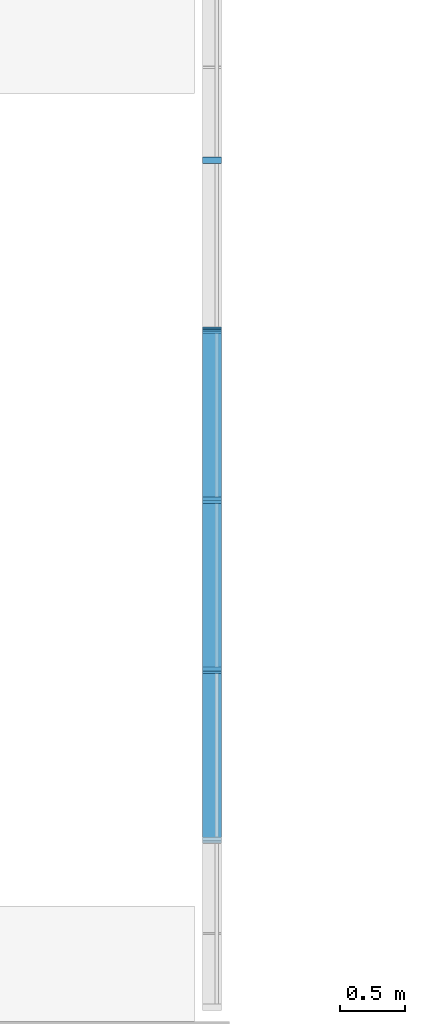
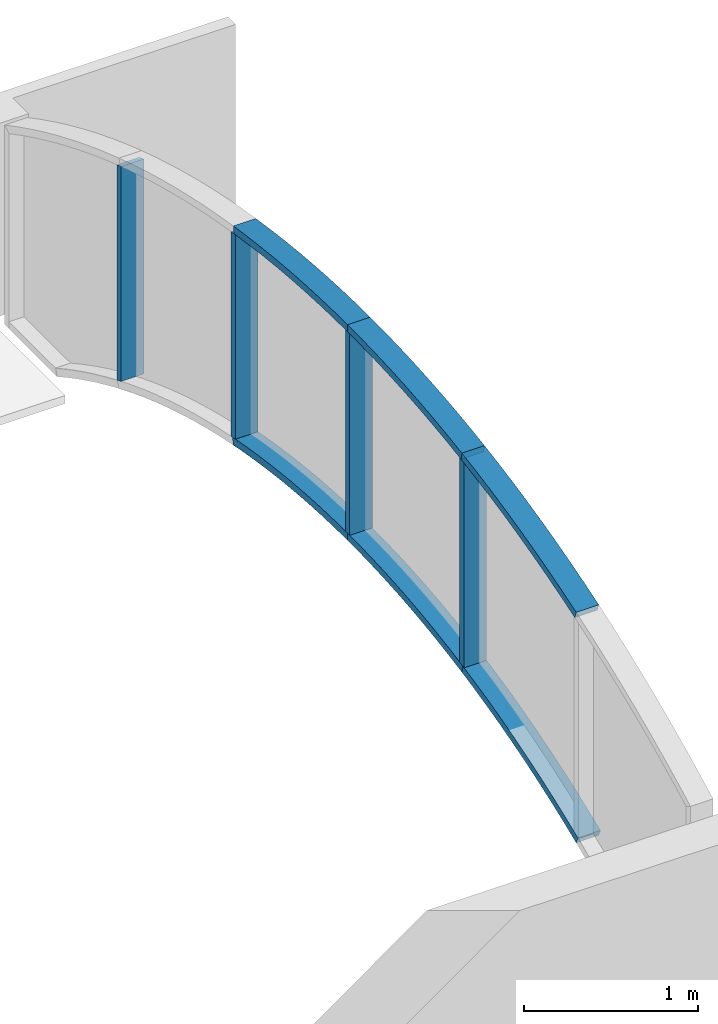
# One storey, part 5 of 14: 16 members, 2 elements without a shape of their own.
"""IFC2X3 building model written with IfcOpenShell, lengths in metres."""

from ifc_helpers import new_model, entity, si_unit, converted_unit, frame, frame_2d, origin, place, context, project, spatial, polyline, circle_curve, parameter, trimmed, segment, composite_curve, outline, extrude, source, transform, mapped, material, type_object, type_shapes, element, aggregate, save


model = new_model("IFC2X3")

# Units and contexts
model_context = context("Model", 3, precision=1e-09, world=origin())
plan_context = context("Plan", 3, precision=1e-09, world=origin())
ifc_project = project(units=[si_unit("LENGTHUNIT", "METRE"), si_unit("AREAUNIT", "SQUARE_METRE"), si_unit("VOLUMEUNIT", "CUBIC_METRE"), converted_unit("PLANEANGLEUNIT", "DEGREE", entity("IfcRatioMeasure", 0.01745329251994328), si_unit("PLANEANGLEUNIT", "RADIAN"), dimensions=[0, 0, 0, 0, 0, 0, 0]), si_unit("TIMEUNIT", "SECOND")], contexts=[model_context, plan_context])

# Site, building, storey
site_placement = place(None, origin())
site = spatial("IfcSite", under=ifc_project, at=site_placement, Name="Default", CompositionType="ELEMENT")
building_placement = place(site_placement, origin())
building = spatial("IfcBuilding", under=site, at=building_placement, CompositionType="ELEMENT")
storey_placement = place(building_placement, frame((0.0, 0.0, 9.25000000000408)))
storey = spatial("IfcBuildingStorey", under=building, at=storey_placement, Name="Roof - Main", CompositionType="ELEMENT", Elevation=9.25000000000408)

# Curtain wall, members
curtain_wall_1_placement = place(storey_placement, origin())
curtain_wall_1 = element("IfcCurtainWall", 1, at=curtain_wall_1_placement, inside=storey, Name="Curtain Wall:Storefront", ObjectType="Curtain Wall:Storefront")
ifc_material = material(Name="Metal - Aluminium")
member_type_1 = type_object("IfcMemberType", Name="50 x 150mm", PredefinedType="MULLION")
shared_shape_1 = source(origin(), model_context, "Body", "SweptSolid", [
    extrude(outline(composite_curve([segment(polyline([(-0.742957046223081, -0.0256760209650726), (0.7624396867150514, -0.0256760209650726)]), True, "CONTINUOUS"), segment(trimmed(circle_curve(frame_2d((-7.105277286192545, -2.624112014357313), x_axis=(0.9875410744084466, 0.1573614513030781)), 8.285700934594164), [parameter(9.22283189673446)], [parameter(9.290308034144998)], True, "PARAMETER"), True, "CONTINUOUS"), segment(polyline([(0.7593740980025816, -0.01641215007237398), (0.7525883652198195, 0.003964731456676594)]), True, "CONTINUOUS"), segment(polyline([(0.7525883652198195, 0.003964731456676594), (0.7457498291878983, 0.02432397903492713)]), True, "CONTINUOUS"), segment(polyline([(0.7457498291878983, 0.02432397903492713), (-0.7637308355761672, 0.02432397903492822)]), True, "CONTINUOUS"), segment(trimmed(circle_curve(frame_2d((-7.072592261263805, -2.626170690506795), x_axis=(0.8711951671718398, 0.4909368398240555)), 6.843015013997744), [parameter(353.3346662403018)], [parameter(353.3861960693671)], True, "PARAMETER"), False, "CONTINUOUS"), segment(polyline([(-0.7613496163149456, 0.01864891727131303), (-0.7521144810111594, -0.003497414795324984)]), True, "CONTINUOUS"), segment(polyline([(-0.7521144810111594, -0.003497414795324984), (-0.742957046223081, -0.02567602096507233)]), True, "CONTINUOUS")], self_intersect=False)), frame((-0.0006760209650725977, -0.07499999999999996, -0.8074641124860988), z_axis=(0.0, 1.0, 0.0), x_axis=(0.0, 0.0, -1.0)), (0.0, 0.0, 1.0), 0.15),
])
type_shapes(member_type_1, [shared_shape_1])
member_1_placement = place(storey_placement, frame((-15.23000000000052, 34.31868599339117, 0.3470862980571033), z_axis=(0.0, 0.0, -1.0), x_axis=(0.0, -1.0, 0.0)))
member_1 = element("IfcMember", 2, at=member_1_placement, type_object=member_type_1, material=ifc_material, Name="Rectangular Mullion:50 x 150mm:50 x 150mm", ObjectType="50 x 150mm", context=model_context, shape_type="MappedRepresentation", body=[
    mapped(shared_shape_1, transform((0.0, 0.0, 0.0), scale=1.0)),
])
member_type_2 = type_object("IfcMemberType", Name="50 x 150mm", PredefinedType="MULLION")
shared_shape_2 = source(origin(), model_context, "Body", "SweptSolid", [
    extrude(outline(composite_curve([segment(polyline([(-0.7114755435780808, -0.02533874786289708), (0.720462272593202, -0.02533874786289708)]), True, "CONTINUOUS"), segment(trimmed(circle_curve(frame_2d((-7.46471926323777, -1.31205674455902), x_axis=(1.0, 0.0)), 8.285700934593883), [parameter(8.933836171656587)], [parameter(9.053778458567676)], True, "PARAMETER"), True, "CONTINUOUS"), segment(polyline([(0.7177507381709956, -0.008206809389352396), (0.7151146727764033, 0.008229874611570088)]), True, "CONTINUOUS"), segment(polyline([(0.7151146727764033, 0.008229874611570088), (0.7124455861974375, 0.02466125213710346)]), True, "CONTINUOUS"), segment(polyline([(0.7124455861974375, 0.02466125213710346), (-0.7212569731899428, 0.02466125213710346)]), True, "CONTINUOUS"), segment(trimmed(circle_curve(frame_2d((-7.432034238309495, -1.314115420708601), x_axis=(0.9222897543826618, 0.3864991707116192)), 6.843015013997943), [parameter(348.4144940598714)], [parameter(348.5453495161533)], True, "PARAMETER"), False, "CONTINUOUS"), segment(polyline([(-0.7182168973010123, 0.009331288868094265), (-0.7148238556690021, -0.007999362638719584)]), True, "CONTINUOUS"), segment(polyline([(-0.7148238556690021, -0.007999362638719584), (-0.7114755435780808, -0.02533874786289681)]), True, "CONTINUOUS")], self_intersect=False)), frame((-0.0003387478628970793, -0.07499999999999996, -0.7672728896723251), z_axis=(0.0, 1.0, 0.0), x_axis=(0.0, 0.0, -1.0)), (0.0, 0.0, 1.0), 0.15),
])
type_shapes(member_type_2, [shared_shape_2])
member_2_placement = place(storey_placement, frame((-15.23000000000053, 33.0069679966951, 0.7467194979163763), z_axis=(0.0, 0.0, -1.0), x_axis=(0.0, -1.0, 0.0)))
member_2 = element("IfcMember", 3, at=member_2_placement, type_object=member_type_2, material=ifc_material, Name="Rectangular Mullion:50 x 150mm:50 x 150mm", ObjectType="50 x 150mm", context=model_context, shape_type="MappedRepresentation", body=[
    mapped(shared_shape_2, transform((0.0, 0.0, 0.0), scale=1.0)),
])
member_type_3 = type_object("IfcMemberType", Name="50 x 150mm", PredefinedType="MULLION")
shared_shape_3 = source(origin(), model_context, "Body", "SweptSolid", [
    extrude(outline(composite_curve([segment(polyline([(-0.7050109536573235, -0.02500252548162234), (0.7049906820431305, -0.02500252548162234)]), True, "CONTINUOUS"), segment(trimmed(circle_curve(frame_2d((-7.580672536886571, -2.525481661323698e-06), x_axis=(0.9875410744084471, -0.1573614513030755)), 8.285700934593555), [parameter(8.880902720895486)], [parameter(9.053778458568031)], True, "PARAMETER"), True, "CONTINUOUS"), segment(trimmed(circle_curve(frame_2d((-7.580672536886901, -2.525481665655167e-06), x_axis=(1.0, 0.0)), 8.285700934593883), [parameter(0.0)], [parameter(0.1728757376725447)], True, "PARAMETER"), True, "CONTINUOUS"), segment(polyline([(0.7049906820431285, 0.02499747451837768), (-0.7050259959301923, 0.02499747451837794)]), True, "CONTINUOUS"), segment(trimmed(circle_curve(frame_2d((-7.547987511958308, -0.002061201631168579), x_axis=(0.9811197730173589, 0.1934011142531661)), 6.843015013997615), [parameter(348.8660276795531)], [parameter(349.075223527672)], True, "PARAMETER"), False, "CONTINUOUS"), segment(trimmed(circle_curve(frame_2d((-7.547987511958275, -0.002061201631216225), x_axis=(0.9999999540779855, 0.0003030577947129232)), 6.843015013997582), [parameter(359.7905506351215)], [parameter(0.0)], True, "PARAMETER"), False, "CONTINUOUS")], self_intersect=False)), frame((-2.525481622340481e-06, -0.07499999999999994, -0.7549728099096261), z_axis=(0.0, 1.0, 0.0), x_axis=(0.0, 0.0, -1.0)), (0.0, 0.0, 1.0), 0.15),
])
type_shapes(member_type_3, [shared_shape_3])
member_3_placement = place(storey_placement, frame((-15.23000000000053, 31.69524999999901, 0.8749728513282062), z_axis=(0.0, 0.0, -1.0), x_axis=(0.0, -1.0, 0.0)))
member_3 = element("IfcMember", 4, at=member_3_placement, type_object=member_type_3, material=ifc_material, Name="Rectangular Mullion:50 x 150mm:50 x 150mm", ObjectType="50 x 150mm", context=model_context, shape_type="MappedRepresentation", body=[
    mapped(shared_shape_3, transform((0.0, 0.0, 0.0), scale=1.0)),
])
member_type_4 = type_object("IfcMemberType", Name="50 x 150mm", PredefinedType="MULLION")
shared_shape_4 = source(origin(), model_context, "Body", "SweptSolid", [
    extrude(outline(composite_curve([segment(polyline([(-0.07677120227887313, -0.6538919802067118), (-0.02677120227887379, -0.6538919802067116)]), True, "CONTINUOUS"), segment(trimmed(circle_curve(frame_2d((8.25892973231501, -0.6538919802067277), x_axis=(-0.987541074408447, 0.1573614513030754)), 8.285700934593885), [parameter(3.562221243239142e-13)], [parameter(9.053778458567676)], True, "PARAMETER"), False, "CONTINUOUS"), segment(polyline([(0.07645972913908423, 0.6499579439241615), (0.02708267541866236, 0.6578260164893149)]), True, "CONTINUOUS"), segment(trimmed(circle_curve(frame_2d((8.25892973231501, -0.6538919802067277), x_axis=(-0.987541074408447, 0.1573614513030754)), 8.335700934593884), [parameter(3.562221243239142e-13)], [parameter(9.053778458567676)], True, "PARAMETER"), True, "CONTINUOUS")], self_intersect=False)), frame((-0.07677120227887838, -0.07499999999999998, -0.6538919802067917), z_axis=(0.0, 1.0, 0.0), x_axis=(-0.987541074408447, 0.0, 0.1573614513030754)), (0.0, 0.0, 1.0), 0.15),
])
type_shapes(member_type_4, [shared_shape_4])
member_4_placement = place(storey_placement, frame((-15.23000000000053, 31.69524999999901, 2.384974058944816), z_axis=(0.0, -1.0, 0.0), x_axis=(0.0, 0.0, 1.0)))
member_4 = element("IfcMember", 5, at=member_4_placement, type_object=member_type_4, material=ifc_material, Name="Rectangular Mullion:50 x 150mm:50 x 150mm", ObjectType="50 x 150mm", context=model_context, shape_type="MappedRepresentation", body=[
    mapped(shared_shape_4, transform((0.0, 0.0, 0.0), scale=1.0)),
])
member_type_5 = type_object("IfcMemberType", Name="50 x 150mm", PredefinedType="MULLION")
shared_shape_5 = source(origin(), model_context, "Body", "SweptSolid", [
    extrude(outline(composite_curve([segment(polyline([(-0.07677120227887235, -0.6538919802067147), (-0.02677120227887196, -0.6538919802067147)]), True, "CONTINUOUS"), segment(trimmed(circle_curve(frame_2d((8.258929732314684, -0.653891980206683), x_axis=(-0.9875410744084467, 0.1573614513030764)), 8.285700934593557), [parameter(3.562221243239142e-13)], [parameter(9.053778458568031)], True, "PARAMETER"), False, "CONTINUOUS"), segment(polyline([(0.0764597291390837, 0.6499579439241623), (0.02708267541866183, 0.6578260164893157)]), True, "CONTINUOUS"), segment(trimmed(circle_curve(frame_2d((8.258929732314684, -0.653891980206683), x_axis=(-0.9875410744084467, 0.1573614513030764)), 8.335700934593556), [parameter(3.562221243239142e-13)], [parameter(9.053778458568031)], True, "PARAMETER"), True, "CONTINUOUS")], self_intersect=False)), frame((-0.07677120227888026, -0.07499999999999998, -0.6538919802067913), z_axis=(0.0, 1.0, 0.0), x_axis=(-0.9875410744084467, 0.0, 0.1573614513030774)), (0.0, 0.0, 1.0), 0.1499999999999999),
])
type_shapes(member_type_5, [shared_shape_5])
member_5_placement = place(storey_placement, frame((-15.23000000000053, 30.38353200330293, 2.281120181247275), z_axis=(0.0, -0.9875410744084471, -0.1573614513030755), x_axis=(0.0, -0.1573614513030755, 0.9875410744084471)))
member_5 = element("IfcMember", 6, at=member_5_placement, type_object=member_type_5, material=ifc_material, Name="Rectangular Mullion:50 x 150mm:50 x 150mm", ObjectType="50 x 150mm", context=model_context, shape_type="MappedRepresentation", body=[
    mapped(shared_shape_5, transform((0.0, 0.0, 0.0), scale=1.0)),
])
member_type_6 = type_object("IfcMemberType", Name="50 x 150mm", PredefinedType="MULLION")
shared_shape_6 = source(origin(), model_context, "Body", "SweptSolid", [
    extrude(outline(composite_curve([segment(polyline([(0.03916318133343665, -0.6582921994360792), (0.08916318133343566, -0.6582921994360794)]), True, "CONTINUOUS"), segment(trimmed(circle_curve(frame_2d((-6.753851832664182, -0.6582921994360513), x_axis=(0.9811783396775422, 0.1931037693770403)), 6.843015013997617), [parameter(348.8660276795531)], [parameter(359.9999999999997)], True, "PARAMETER"), True, "CONTINUOUS"), segment(polyline([(-0.03963372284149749, 0.6631197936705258), (-0.08869263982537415, 0.6534646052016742)]), True, "CONTINUOUS"), segment(trimmed(circle_curve(frame_2d((-6.753851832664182, -0.6582921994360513), x_axis=(0.9811783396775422, 0.1931037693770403)), 6.793015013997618), [parameter(348.8660276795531)], [parameter(359.9999999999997)], True, "PARAMETER"), False, "CONTINUOUS")], self_intersect=False)), frame((0.03916318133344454, -0.07499999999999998, -0.6582921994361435), z_axis=(0.0, 1.0, 0.0), x_axis=(-0.9811783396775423, 0.0, -0.1931037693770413)), (0.0, 0.0, 1.0), 0.1499999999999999),
])
type_shapes(member_type_6, [shared_shape_6])
member_6_placement = place(storey_placement, frame((-15.23000000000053, 33.0069679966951, 0.7467194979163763), z_axis=(0.0, 0.9811197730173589, -0.1934011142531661), x_axis=(0.0, -0.1934011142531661, -0.9811197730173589)))
member_6 = element("IfcMember", 7, at=member_6_placement, type_object=member_type_6, material=ifc_material, Name="Rectangular Mullion:50 x 150mm:50 x 150mm", ObjectType="50 x 150mm", context=model_context, shape_type="MappedRepresentation", body=[
    mapped(shared_shape_6, transform((0.0, 0.0, 0.0), scale=1.0)),
])
member_type_7 = type_object("IfcMemberType", Name="50 x 150mm", PredefinedType="MULLION")
shared_shape_7 = source(origin(), model_context, "Body", "SweptSolid", [
    extrude(outline(composite_curve([segment(polyline([(0.03915552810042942, -0.6582533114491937), (0.08915552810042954, -0.6582533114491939)]), True, "CONTINUOUS"), segment(trimmed(circle_curve(frame_2d((-6.753859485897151, -0.6582533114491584), x_axis=(0.9811805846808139, 0.1930923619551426)), 6.84301501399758), [parameter(348.8666938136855)], [parameter(359.9999999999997)], True, "PARAMETER"), True, "CONTINUOUS"), segment(polyline([(-0.03962601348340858, 0.6630806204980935), (-0.08868504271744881, 0.6534260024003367)]), True, "CONTINUOUS"), segment(trimmed(circle_curve(frame_2d((-6.753859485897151, -0.6582533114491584), x_axis=(0.9811805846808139, 0.1930923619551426)), 6.793015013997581), [parameter(348.8666938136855)], [parameter(359.9999999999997)], True, "PARAMETER"), False, "CONTINUOUS")], self_intersect=False)), frame((0.03915552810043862, -0.07499999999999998, -0.6582533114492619), z_axis=(0.0, 1.0, 0.0), x_axis=(-0.981180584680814, 0.0, -0.1930923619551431)), (0.0, 0.0, 1.0), 0.1499999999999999),
])
type_shapes(member_type_7, [shared_shape_7])
member_7_placement = place(storey_placement, frame((-15.23000000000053, 31.69524999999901, 0.8749728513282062), z_axis=(0.0, 0.9999999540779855, -0.0003030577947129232), x_axis=(0.0, -0.0003030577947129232, -0.9999999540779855)))
member_7 = element("IfcMember", 8, at=member_7_placement, type_object=member_type_7, material=ifc_material, Name="Rectangular Mullion:50 x 150mm:50 x 150mm", ObjectType="50 x 150mm", context=model_context, shape_type="MappedRepresentation", body=[
    mapped(shared_shape_7, transform((0.0, 0.0, 0.0), scale=1.0)),
])
aggregate(curtain_wall_1, [member_1, member_2, member_3, member_4, member_5, member_6, member_7])

curtain_wall_2_placement = place(storey_placement, origin())
curtain_wall_2 = element("IfcCurtainWall", 9, at=curtain_wall_2_placement, inside=storey, Name="Curtain Wall:Storefront", ObjectType="Curtain Wall:Storefront")
member_type_8 = type_object("IfcMemberType", Name="50 x 150mm", PredefinedType="MULLION")
shared_shape_8 = source(origin(), model_context, "Body", "SweptSolid", [
    extrude(outline(composite_curve([segment(polyline([(-0.7114755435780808, -0.02533874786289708), (0.720462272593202, -0.02533874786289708)]), True, "CONTINUOUS"), segment(trimmed(circle_curve(frame_2d((-7.46471926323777, -1.31205674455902), x_axis=(1.0, 0.0)), 8.285700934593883), [parameter(8.933836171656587)], [parameter(9.053778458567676)], True, "PARAMETER"), True, "CONTINUOUS"), segment(polyline([(0.7177507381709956, -0.008206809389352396), (0.7151146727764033, 0.008229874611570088)]), True, "CONTINUOUS"), segment(polyline([(0.7151146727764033, 0.008229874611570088), (0.7124455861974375, 0.02466125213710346)]), True, "CONTINUOUS"), segment(polyline([(0.7124455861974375, 0.02466125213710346), (-0.7212569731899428, 0.02466125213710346)]), True, "CONTINUOUS"), segment(trimmed(circle_curve(frame_2d((-7.432034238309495, -1.314115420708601), x_axis=(0.9222897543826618, 0.3864991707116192)), 6.843015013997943), [parameter(348.4144940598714)], [parameter(348.5453495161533)], True, "PARAMETER"), False, "CONTINUOUS"), segment(polyline([(-0.7182168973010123, 0.009331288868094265), (-0.7148238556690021, -0.007999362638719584)]), True, "CONTINUOUS"), segment(polyline([(-0.7148238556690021, -0.007999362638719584), (-0.7114755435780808, -0.02533874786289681)]), True, "CONTINUOUS")], self_intersect=False)), frame((-0.0003387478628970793, -0.07499999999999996, -0.7672728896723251), z_axis=(0.0, 1.0, 0.0), x_axis=(0.0, 0.0, -1.0)), (0.0, 0.0, 1.0), 0.15),
])
type_shapes(member_type_8, [shared_shape_8])
member_8_placement = place(storey_placement, frame((-15.23000000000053, 30.38353200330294, 0.7467194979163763), z_axis=(0.0, 0.0, -1.0), x_axis=(0.0, 1.0, 0.0)))
member_8 = element("IfcMember", 10, at=member_8_placement, type_object=member_type_8, material=ifc_material, Name="Rectangular Mullion:50 x 150mm:50 x 150mm", ObjectType="50 x 150mm", context=model_context, shape_type="MappedRepresentation", body=[
    mapped(shared_shape_8, transform((0.0, 0.0, 0.0), scale=1.0)),
])
member_type_9 = type_object("IfcMemberType", Name="50 x 150mm", PredefinedType="MULLION")
shared_shape_9 = source(origin(), model_context, "Body", "SweptSolid", [
    extrude(outline(composite_curve([segment(polyline([(-0.7050109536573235, -0.02500252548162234), (0.7049906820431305, -0.02500252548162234)]), True, "CONTINUOUS"), segment(trimmed(circle_curve(frame_2d((-7.580672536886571, -2.525481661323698e-06), x_axis=(0.9875410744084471, -0.1573614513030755)), 8.285700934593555), [parameter(8.880902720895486)], [parameter(9.053778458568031)], True, "PARAMETER"), True, "CONTINUOUS"), segment(trimmed(circle_curve(frame_2d((-7.580672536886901, -2.525481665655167e-06), x_axis=(1.0, 0.0)), 8.285700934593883), [parameter(0.0)], [parameter(0.1728757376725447)], True, "PARAMETER"), True, "CONTINUOUS"), segment(polyline([(0.7049906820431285, 0.02499747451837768), (-0.7050259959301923, 0.02499747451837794)]), True, "CONTINUOUS"), segment(trimmed(circle_curve(frame_2d((-7.547987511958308, -0.002061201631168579), x_axis=(0.9811197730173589, 0.1934011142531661)), 6.843015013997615), [parameter(348.8660276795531)], [parameter(349.075223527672)], True, "PARAMETER"), False, "CONTINUOUS"), segment(trimmed(circle_curve(frame_2d((-7.547987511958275, -0.002061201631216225), x_axis=(0.9999999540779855, 0.0003030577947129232)), 6.843015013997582), [parameter(359.7905506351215)], [parameter(0.0)], True, "PARAMETER"), False, "CONTINUOUS")], self_intersect=False)), frame((-2.525481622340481e-06, -0.07499999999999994, -0.7549728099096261), z_axis=(0.0, 1.0, 0.0), x_axis=(0.0, 0.0, -1.0)), (0.0, 0.0, 1.0), 0.15),
])
type_shapes(member_type_9, [shared_shape_9])
member_9_placement = place(storey_placement, frame((-15.23000000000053, 31.69524999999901, 0.8749728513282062), z_axis=(0.0, 0.0, -1.0), x_axis=(0.0, 1.0, 0.0)))
member_9 = element("IfcMember", 11, at=member_9_placement, type_object=member_type_9, material=ifc_material, Name="Rectangular Mullion:50 x 150mm:50 x 150mm", ObjectType="50 x 150mm", context=model_context, shape_type="MappedRepresentation", body=[
    mapped(shared_shape_9, transform((0.0, 0.0, 0.0), scale=1.0)),
])
member_type_10 = type_object("IfcMemberType", Name="50 x 150mm", PredefinedType="MULLION")
shared_shape_10 = source(origin(), model_context, "Body", "SweptSolid", [
    extrude(outline(composite_curve([segment(polyline([(-0.7207281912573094, -0.02466761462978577), (0.7121542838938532, -0.02466761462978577)]), True, "CONTINUOUS"), segment(trimmed(circle_curve(frame_2d((-7.465010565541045, 1.312050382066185), x_axis=(0.9491835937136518, -0.3147229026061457)), 8.285700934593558), [parameter(9.060082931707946)], [parameter(9.29030803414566)], True, "PARAMETER"), True, "CONTINUOUS"), segment(polyline([(0.7174594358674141, 0.008200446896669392), (0.7188196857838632, 0.01676570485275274)]), True, "CONTINUOUS"), segment(polyline([(0.7188196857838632, 0.01676570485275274), (0.7201709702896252, 0.02533238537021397)]), True, "CONTINUOUS"), segment(polyline([(0.7201709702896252, 0.02533238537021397), (-0.7109785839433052, 0.02533238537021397)]), True, "CONTINUOUS"), segment(trimmed(circle_curve(frame_2d((-7.432325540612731, 1.309991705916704), x_axis=(0.9999999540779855, 0.0003030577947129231)), 6.843015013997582), [parameter(348.8666938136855)], [parameter(349.1621254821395)], True, "PARAMETER"), False, "CONTINUOUS"), segment(polyline([(-0.7176919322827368, -0.009307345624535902), (-0.7192056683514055, -0.01698834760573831)]), True, "CONTINUOUS"), segment(polyline([(-0.7192056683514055, -0.01698834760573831), (-0.7207281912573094, -0.02466761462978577)]), True, "CONTINUOUS")], self_intersect=False)), frame((0.0003323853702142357, -0.07499999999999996, -0.7667538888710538), z_axis=(0.0, 1.0, 0.0), x_axis=(0.0, 0.0, -1.0)), (0.0, 0.0, 1.0), 0.15),
])
type_shapes(member_type_10, [shared_shape_10])
member_10_placement = place(storey_placement, frame((-15.23000000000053, 33.0069679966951, 0.7475298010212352), z_axis=(0.0, 0.0, -1.0), x_axis=(0.0, 1.0, 0.0)))
member_10 = element("IfcMember", 12, at=member_10_placement, type_object=member_type_10, material=ifc_material, Name="Rectangular Mullion:50 x 150mm:50 x 150mm", ObjectType="50 x 150mm", context=model_context, shape_type="MappedRepresentation", body=[
    mapped(shared_shape_10, transform((0.0, 0.0, 0.0), scale=1.0)),
])
member_type_11 = type_object("IfcMemberType", Name="50 x 150mm", PredefinedType="MULLION")
shared_shape_11 = source(origin(), model_context, "Body", "SweptSolid", [
    extrude(outline(composite_curve([segment(polyline([(-0.0795055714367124, -0.6708268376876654), (-0.0295055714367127, -0.6708268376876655)]), True, "CONTINUOUS"), segment(trimmed(circle_curve(frame_2d((8.256195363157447, -0.6708268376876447), x_axis=(-0.9868830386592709, 0.1614368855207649)), 8.28570093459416), [parameter(3.562221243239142e-13)], [parameter(9.290308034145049)], True, "PARAMETER"), False, "CONTINUOUS"), segment(polyline([(0.07917764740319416, 0.6667909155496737), (0.02983349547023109, 0.6748627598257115)]), True, "CONTINUOUS"), segment(trimmed(circle_curve(frame_2d((8.256195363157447, -0.6708268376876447), x_axis=(-0.9868830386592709, 0.1614368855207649)), 8.33570093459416), [parameter(3.562221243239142e-13)], [parameter(9.290308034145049)], True, "PARAMETER"), True, "CONTINUOUS")], self_intersect=False)), frame((-0.0795055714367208, -0.07499999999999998, -0.6708268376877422), z_axis=(0.0, 1.0, 0.0), x_axis=(-0.9868830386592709, 0.0, 0.1614368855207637)), (0.0, 0.0, 1.0), 0.15),
])
type_shapes(member_type_11, [shared_shape_11])
member_11_placement = place(storey_placement, frame((-15.23000000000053, 30.38353200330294, 2.281120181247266), z_axis=(0.0, 0.9875410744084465, 0.1573614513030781), x_axis=(0.0, -0.1573614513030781, 0.9875410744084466)))
member_11 = element("IfcMember", 13, at=member_11_placement, type_object=member_type_11, material=ifc_material, Name="Rectangular Mullion:50 x 150mm:50 x 150mm", ObjectType="50 x 150mm", context=model_context, shape_type="MappedRepresentation", body=[
    mapped(shared_shape_11, transform((0.0, 0.0, 0.0), scale=1.0)),
])
member_type_12 = type_object("IfcMemberType", Name="50 x 150mm", PredefinedType="MULLION")
shared_shape_12 = source(origin(), model_context, "Body", "SweptSolid", [
    extrude(outline(composite_curve([segment(polyline([(-0.07677120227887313, -0.6538919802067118), (-0.02677120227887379, -0.6538919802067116)]), True, "CONTINUOUS"), segment(trimmed(circle_curve(frame_2d((8.25892973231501, -0.6538919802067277), x_axis=(-0.987541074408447, 0.1573614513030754)), 8.285700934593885), [parameter(3.562221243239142e-13)], [parameter(9.053778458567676)], True, "PARAMETER"), False, "CONTINUOUS"), segment(polyline([(0.07645972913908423, 0.6499579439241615), (0.02708267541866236, 0.6578260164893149)]), True, "CONTINUOUS"), segment(trimmed(circle_curve(frame_2d((8.25892973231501, -0.6538919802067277), x_axis=(-0.987541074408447, 0.1573614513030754)), 8.335700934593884), [parameter(3.562221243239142e-13)], [parameter(9.053778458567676)], True, "PARAMETER"), True, "CONTINUOUS")], self_intersect=False)), frame((-0.07677120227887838, -0.07499999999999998, -0.6538919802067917), z_axis=(0.0, 1.0, 0.0), x_axis=(-0.987541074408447, 0.0, 0.1573614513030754)), (0.0, 0.0, 1.0), 0.15),
])
type_shapes(member_type_12, [shared_shape_12])
member_12_placement = place(storey_placement, frame((-15.23000000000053, 31.69524999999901, 2.384974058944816), z_axis=(0.0, 1.0, 0.0), x_axis=(0.0, 0.0, 1.0)))
member_12 = element("IfcMember", 14, at=member_12_placement, type_object=member_type_12, material=ifc_material, Name="Rectangular Mullion:50 x 150mm:50 x 150mm", ObjectType="50 x 150mm", context=model_context, shape_type="MappedRepresentation", body=[
    mapped(shared_shape_12, transform((0.0, 0.0, 0.0), scale=1.0)),
])
member_type_13 = type_object("IfcMemberType", Name="50 x 150mm", PredefinedType="MULLION")
shared_shape_13 = source(origin(), model_context, "Body", "SweptSolid", [
    extrude(outline(composite_curve([segment(polyline([(-0.07677120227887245, -0.6538919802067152), (-0.02677120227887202, -0.653891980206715)]), True, "CONTINUOUS"), segment(trimmed(circle_curve(frame_2d((8.258929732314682, -0.6538919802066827), x_axis=(-0.9875410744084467, 0.1573614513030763)), 8.285700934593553), [parameter(3.562221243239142e-13)], [parameter(9.053778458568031)], True, "PARAMETER"), False, "CONTINUOUS"), segment(polyline([(0.07645972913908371, 0.6499579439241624), (0.02708267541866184, 0.6578260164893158)]), True, "CONTINUOUS"), segment(trimmed(circle_curve(frame_2d((8.258929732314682, -0.6538919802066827), x_axis=(-0.9875410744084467, 0.1573614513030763)), 8.335700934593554), [parameter(3.562221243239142e-13)], [parameter(9.053778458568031)], True, "PARAMETER"), True, "CONTINUOUS")], self_intersect=False)), frame((-0.07677120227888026, -0.07499999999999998, -0.6538919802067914), z_axis=(0.0, 1.0, 0.0), x_axis=(-0.9875410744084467, 0.0, 0.1573614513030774)), (0.0, 0.0, 1.0), 0.1499999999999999),
])
type_shapes(member_type_13, [shared_shape_13])
member_13_placement = place(storey_placement, frame((-15.23000000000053, 33.0069679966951, 2.281120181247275), z_axis=(0.0, 0.9875410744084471, -0.1573614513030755), x_axis=(0.0, 0.1573614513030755, 0.9875410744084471)))
member_13 = element("IfcMember", 15, at=member_13_placement, type_object=member_type_13, material=ifc_material, Name="Rectangular Mullion:50 x 150mm:50 x 150mm", ObjectType="50 x 150mm", context=model_context, shape_type="MappedRepresentation", body=[
    mapped(shared_shape_13, transform((0.0, 0.0, 0.0), scale=1.0)),
])
member_type_14 = type_object("IfcMemberType", Name="50 x 150mm", PredefinedType="MULLION")
shared_shape_14 = source(origin(), model_context, "Body", "SweptSolid", [
    extrude(outline(composite_curve([segment(polyline([(0.04445483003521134, -0.6846313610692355), (0.09445483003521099, -0.6846313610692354)]), True, "CONTINUOUS"), segment(trimmed(circle_curve(frame_2d((-6.748560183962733, -0.684631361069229), x_axis=(0.9796260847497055, 0.2008301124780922)), 6.843015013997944), [parameter(348.4144940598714)], [parameter(359.9999999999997)], True, "PARAMETER"), True, "CONTINUOUS"), segment(polyline([(-0.04496417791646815, 0.6896521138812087), (-0.09394548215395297, 0.6796106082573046)]), True, "CONTINUOUS"), segment(trimmed(circle_curve(frame_2d((-6.748560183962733, -0.684631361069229), x_axis=(0.9796260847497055, 0.2008301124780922)), 6.793015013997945), [parameter(348.4144940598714)], [parameter(359.9999999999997)], True, "PARAMETER"), False, "CONTINUOUS")], self_intersect=False)), frame((0.04445483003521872, -0.07499999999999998, -0.6846313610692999), z_axis=(0.0, 1.0, 0.0), x_axis=(-0.9796260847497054, 0.0, -0.200830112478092)), (0.0, 0.0, 1.0), 0.15),
])
type_shapes(member_type_14, [shared_shape_14])
member_14_placement = place(storey_placement, frame((-15.23000000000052, 29.07181400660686, 0.3470862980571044), z_axis=(0.0, -0.9222897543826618, -0.3864991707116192), x_axis=(0.0, 0.3864991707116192, -0.9222897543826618)))
member_14 = element("IfcMember", 16, at=member_14_placement, type_object=member_type_14, material=ifc_material, Name="Rectangular Mullion:50 x 150mm:50 x 150mm", ObjectType="50 x 150mm", context=model_context, shape_type="MappedRepresentation", body=[
    mapped(shared_shape_14, transform((0.0, 0.0, 0.0), scale=1.0)),
])
member_type_15 = type_object("IfcMemberType", Name="50 x 150mm", PredefinedType="MULLION")
shared_shape_15 = source(origin(), model_context, "Body", "SweptSolid", [
    extrude(outline(composite_curve([segment(polyline([(0.03916318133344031, -0.6582921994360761), (0.08916318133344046, -0.6582921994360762)]), True, "CONTINUOUS"), segment(trimmed(circle_curve(frame_2d((-6.753851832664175, -0.6582921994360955), x_axis=(0.9811783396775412, 0.1931037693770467)), 6.843015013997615), [parameter(348.8660276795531)], [parameter(359.9999999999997)], True, "PARAMETER"), True, "CONTINUOUS"), segment(polyline([(-0.03963372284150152, 0.6631197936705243), (-0.0886926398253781, 0.6534646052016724)]), True, "CONTINUOUS"), segment(trimmed(circle_curve(frame_2d((-6.753851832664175, -0.6582921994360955), x_axis=(0.9811783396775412, 0.1931037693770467)), 6.793015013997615), [parameter(348.8660276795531)], [parameter(359.9999999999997)], True, "PARAMETER"), False, "CONTINUOUS")], self_intersect=False)), frame((0.03916318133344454, -0.07499999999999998, -0.6582921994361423), z_axis=(0.0, 1.0, 0.0), x_axis=(-0.9811783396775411, 0.0, -0.1931037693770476)), (0.0, 0.0, 1.0), 0.1499999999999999),
])
type_shapes(member_type_15, [shared_shape_15])
member_15_placement = place(storey_placement, frame((-15.23000000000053, 30.38353200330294, 0.7467194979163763), z_axis=(0.0, -0.9811197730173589, -0.1934011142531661), x_axis=(0.0, 0.1934011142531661, -0.9811197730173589)))
member_15 = element("IfcMember", 17, at=member_15_placement, type_object=member_type_15, material=ifc_material, Name="Rectangular Mullion:50 x 150mm:50 x 150mm", ObjectType="50 x 150mm", context=model_context, shape_type="MappedRepresentation", body=[
    mapped(shared_shape_15, transform((0.0, 0.0, 0.0), scale=1.0)),
])
member_type_16 = type_object("IfcMemberType", Name="50 x 150mm", PredefinedType="MULLION")
shared_shape_16 = source(origin(), model_context, "Body", "SweptSolid", [
    extrude(outline(composite_curve([segment(polyline([(0.03915552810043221, -0.6582533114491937), (0.08915552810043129, -0.6582533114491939)]), True, "CONTINUOUS"), segment(trimmed(circle_curve(frame_2d((-6.753859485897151, -0.6582533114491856), x_axis=(0.9811805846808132, 0.1930923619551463)), 6.843015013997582), [parameter(348.8666938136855)], [parameter(359.9999999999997)], True, "PARAMETER"), True, "CONTINUOUS"), segment(polyline([(-0.03962601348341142, 0.6630806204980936), (-0.08868504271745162, 0.6534260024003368)]), True, "CONTINUOUS"), segment(trimmed(circle_curve(frame_2d((-6.753859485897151, -0.6582533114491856), x_axis=(0.9811805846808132, 0.1930923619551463)), 6.793015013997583), [parameter(348.8666938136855)], [parameter(359.9999999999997)], True, "PARAMETER"), False, "CONTINUOUS")], self_intersect=False)), frame((0.03915552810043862, -0.07499999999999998, -0.6582533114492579), z_axis=(0.0, 1.0, 0.0), x_axis=(-0.9811805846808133, 0.0, -0.1930923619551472)), (0.0, 0.0, 1.0), 0.1499999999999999),
])
type_shapes(member_type_16, [shared_shape_16])
member_16_placement = place(storey_placement, frame((-15.23000000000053, 31.69524999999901, 0.8749728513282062), z_axis=(0.0, -0.9999999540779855, -0.0003030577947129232), x_axis=(0.0, 0.0003030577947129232, -0.9999999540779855)))
member_16 = element("IfcMember", 18, at=member_16_placement, type_object=member_type_16, material=ifc_material, Name="Rectangular Mullion:50 x 150mm:50 x 150mm", ObjectType="50 x 150mm", context=model_context, shape_type="MappedRepresentation", body=[
    mapped(shared_shape_16, transform((0.0, 0.0, 0.0), scale=1.0)),
])
aggregate(curtain_wall_2, [member_8, member_9, member_10, member_11, member_12, member_13, member_14, member_15, member_16])

save(model, "model.ifc")
